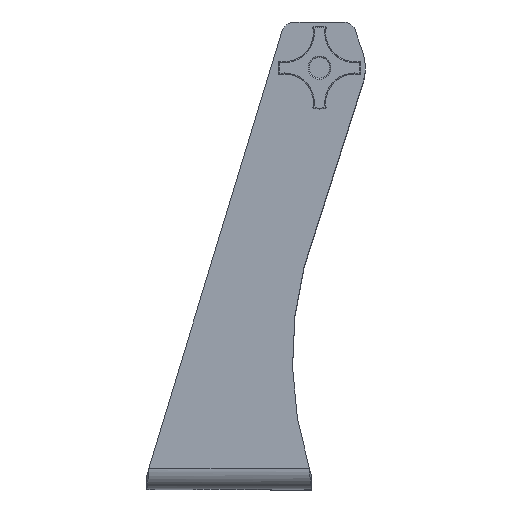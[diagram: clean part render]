
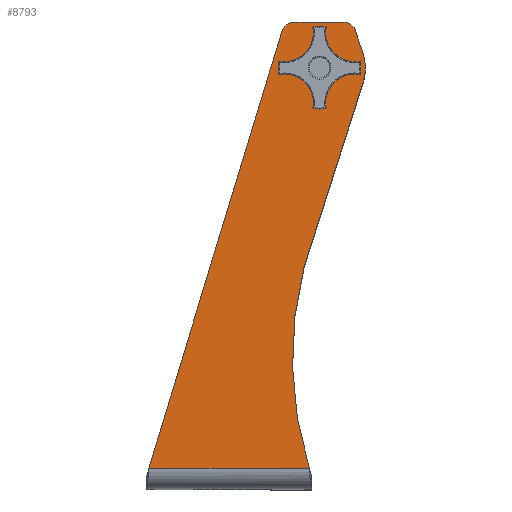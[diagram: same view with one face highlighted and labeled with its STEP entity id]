
A CAD part, top view. The second image highlights one B-rep face of the part: STEP entity #8793.
In plain terms, the highlighted planar face has unit normal (0, 0, 1) as drawn and (1, 0, 0) by its records, which use the part's own axes.
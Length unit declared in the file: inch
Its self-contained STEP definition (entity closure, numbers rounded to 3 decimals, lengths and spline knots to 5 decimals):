
#147 = CARTESIAN_POINT ( 'NONE',  ( 8.7, 6.07712, -2.04636 ) ) ;
#220 = AXIS2_PLACEMENT_3D ( 'NONE', #8429, #3327, #9301 ) ;
#326 = EDGE_CURVE ( 'NONE', #4017, #4833, #8248, .T. ) ;
#335 = VERTEX_POINT ( 'NONE', #7113 ) ;
#636 = DIRECTION ( 'NONE',  ( 1., 0., 0. ) ) ;
#790 = VERTEX_POINT ( 'NONE', #3461 ) ;
#951 = AXIS2_PLACEMENT_3D ( 'NONE', #8020, #2924, #8873 ) ;
#992 = CARTESIAN_POINT ( 'NONE',  ( 8.7, 12.738, -3.10022 ) ) ;
#1123 = EDGE_CURVE ( 'NONE', #10997, #10694, #7450, .T. ) ;
#1178 = ORIENTED_EDGE ( 'NONE', *, *, #5868, .T. ) ;
#1366 = CARTESIAN_POINT ( 'NONE',  ( 8.7, 3.56814, -11.72649 ) ) ;
#1459 = EDGE_CURVE ( 'NONE', #4833, #4017, #9558, .T. ) ;
#1533 = ORIENTED_EDGE ( 'NONE', *, *, #9703, .T. ) ;
#2204 = PLANE ( 'NONE',  #7842 ) ;
#2221 = DIRECTION ( 'NONE',  ( 1., 0., 0. ) ) ;
#2241 = DIRECTION ( 'NONE',  ( 1., 0., 0. ) ) ;
#2382 = CARTESIAN_POINT ( 'NONE',  ( 8.7, 0.563, 2.19271 ) ) ;
#2471 = FACE_OUTER_BOUND ( 'NONE', #4563, .T. ) ;
#2491 = CARTESIAN_POINT ( 'NONE',  ( 8.7, 12.738, -11.72649 ) ) ;
#2552 = VERTEX_POINT ( 'NONE', #8004 ) ;
#2590 = CIRCLE ( 'NONE', #8826, 1.25 ) ;
#2734 = FACE_BOUND ( 'NONE', #3271, .T. ) ;
#2740 = ORIENTED_EDGE ( 'NONE', *, *, #1459, .F. ) ;
#2753 = EDGE_CURVE ( 'NONE', #8576, #8783, #3039, .T. ) ;
#2839 = DIRECTION ( 'NONE',  ( 1., 0., 0. ) ) ;
#2924 = DIRECTION ( 'NONE',  ( 1., 0., 0. ) ) ;
#3039 = LINE ( 'NONE', #2491, #9563 ) ;
#3219 = AXIS2_PLACEMENT_3D ( 'NONE', #8526, #3434, #9394 ) ;
#3271 = EDGE_LOOP ( 'NONE', ( #4531, #2740 ) ) ;
#3327 = DIRECTION ( 'NONE',  ( -1., 0., 0. ) ) ;
#3434 = DIRECTION ( 'NONE',  ( 1., 0., 0. ) ) ;
#3461 = CARTESIAN_POINT ( 'NONE',  ( 8.7, 11.12647, -3.6619 ) ) ;
#3620 = EDGE_CURVE ( 'NONE', #10694, #9142, #9957, .T. ) ;
#3662 = VECTOR ( 'NONE', #7583, 39.37008 ) ;
#3743 = ORIENTED_EDGE ( 'NONE', *, *, #4496, .T. ) ;
#4017 = VERTEX_POINT ( 'NONE', #10166 ) ;
#4055 = VECTOR ( 'NONE', #9561, 39.37008 ) ;
#4207 = LINE ( 'NONE', #7612, #3662 ) ;
#4328 = EDGE_CURVE ( 'NONE', #2552, #8576, #8077, .T. ) ;
#4496 = EDGE_CURVE ( 'NONE', #335, #10997, #4207, .T. ) ;
#4531 = ORIENTED_EDGE ( 'NONE', *, *, #326, .F. ) ;
#4563 = EDGE_LOOP ( 'NONE', ( #3743, #6577, #7619, #6706, #9416, #1178, #8210, #8448, #1533 ) ) ;
#4577 = LINE ( 'NONE', #4649, #6568 ) ;
#4649 = CARTESIAN_POINT ( 'NONE',  ( 8.7, 6.61069, -2.21707 ) ) ;
#4738 = CARTESIAN_POINT ( 'NONE',  ( 8.7, 12.738, -1.79451 ) ) ;
#4833 = VERTEX_POINT ( 'NONE', #10742 ) ;
#4843 = CARTESIAN_POINT ( 'NONE',  ( 8.7, 0.563, -11.72649 ) ) ;
#5157 = VECTOR ( 'NONE', #10675, 39.37008 ) ;
#5730 = CARTESIAN_POINT ( 'NONE',  ( 8.7, 11.488, -2.46533 ) ) ;
#5868 = EDGE_CURVE ( 'NONE', #9639, #2552, #6829, .T. ) ;
#6144 = CARTESIAN_POINT ( 'NONE',  ( 8.7, 1.98684, -6.87961 ) ) ;
#6532 = AXIS2_PLACEMENT_3D ( 'NONE', #8788, #2839, #7942 ) ;
#6568 = VECTOR ( 'NONE', #9762, 39.37008 ) ;
#6577 = ORIENTED_EDGE ( 'NONE', *, *, #1123, .T. ) ;
#6584 = CARTESIAN_POINT ( 'NONE',  ( 8.7, 11.84953, -3.6619 ) ) ;
#6591 = DIRECTION ( 'NONE',  ( 0., 1., 0. ) ) ;
#6706 = ORIENTED_EDGE ( 'NONE', *, *, #9847, .T. ) ;
#6829 = LINE ( 'NONE', #6144, #4055 ) ;
#7113 = CARTESIAN_POINT ( 'NONE',  ( 8.7, 12.45347, -1.43079 ) ) ;
#7323 = CARTESIAN_POINT ( 'NONE',  ( 8.7, 11.488, -2.46533 ) ) ;
#7450 = LINE ( 'NONE', #4843, #5157 ) ;
#7583 = DIRECTION ( 'NONE',  ( 0., -0.957, 0.292 ) ) ;
#7612 = CARTESIAN_POINT ( 'NONE',  ( 8.7, 7.19407, 0.17195 ) ) ;
#7619 = ORIENTED_EDGE ( 'NONE', *, *, #3620, .T. ) ;
#7842 = AXIS2_PLACEMENT_3D ( 'NONE', #1366, #2241, #8199 ) ;
#7942 = DIRECTION ( 'NONE',  ( 0., 1., 0. ) ) ;
#8004 = CARTESIAN_POINT ( 'NONE',  ( 8.7, 12.47165, -3.45894 ) ) ;
#8020 = CARTESIAN_POINT ( 'NONE',  ( 8.7, 12.36326, -3.10022 ) ) ;
#8077 = CIRCLE ( 'NONE', #951, 0.37474 ) ;
#8171 = DIRECTION ( 'NONE',  ( 0., 1., 0. ) ) ;
#8188 = AXIS2_PLACEMENT_3D ( 'NONE', #5730, #636, #6591 ) ;
#8199 = DIRECTION ( 'NONE',  ( 0., 1., 0. ) ) ;
#8210 = ORIENTED_EDGE ( 'NONE', *, *, #4328, .T. ) ;
#8248 = CIRCLE ( 'NONE', #6532, 0.1955 ) ;
#8280 = EDGE_CURVE ( 'NONE', #790, #9639, #2590, .T. ) ;
#8429 = CARTESIAN_POINT ( 'NONE',  ( 8.7, 3.56814, -11.72649 ) ) ;
#8448 = ORIENTED_EDGE ( 'NONE', *, *, #2753, .T. ) ;
#8526 = CARTESIAN_POINT ( 'NONE',  ( 8.7, 12.36326, -1.79451 ) ) ;
#8576 = VERTEX_POINT ( 'NONE', #992 ) ;
#8783 = VERTEX_POINT ( 'NONE', #4738 ) ;
#8788 = CARTESIAN_POINT ( 'NONE',  ( 8.7, 11.488, -2.46533 ) ) ;
#8793 = ADVANCED_FACE ( 'NONE', ( #2734, #2471 ), #2204, .T. ) ;
#8826 = AXIS2_PLACEMENT_3D ( 'NONE', #7323, #2221, #8171 ) ;
#8873 = DIRECTION ( 'NONE',  ( 0., 1., 0. ) ) ;
#9142 = VERTEX_POINT ( 'NONE', #147 ) ;
#9301 = DIRECTION ( 'NONE',  ( 0., 1., 0. ) ) ;
#9310 = DIRECTION ( 'NONE',  ( 0., 0., 1. ) ) ;
#9394 = DIRECTION ( 'NONE',  ( 0., 1., 0. ) ) ;
#9416 = ORIENTED_EDGE ( 'NONE', *, *, #8280, .T. ) ;
#9558 = CIRCLE ( 'NONE', #8188, 0.1955 ) ;
#9561 = DIRECTION ( 'NONE',  ( 0., 0.951, 0.31 ) ) ;
#9563 = VECTOR ( 'NONE', #9310, 39.37008 ) ;
#9639 = VERTEX_POINT ( 'NONE', #6584 ) ;
#9640 = CIRCLE ( 'NONE', #3219, 0.37474 ) ;
#9678 = CARTESIAN_POINT ( 'NONE',  ( 8.7, 0.563, -2.18872 ) ) ;
#9703 = EDGE_CURVE ( 'NONE', #8783, #335, #9640, .T. ) ;
#9762 = DIRECTION ( 'NONE',  ( 0., 0.952, -0.305 ) ) ;
#9847 = EDGE_CURVE ( 'NONE', #9142, #790, #4577, .T. ) ;
#9957 = CIRCLE ( 'NONE', #220, 10. ) ;
#10166 = CARTESIAN_POINT ( 'NONE',  ( 8.7, 11.6835, -2.46533 ) ) ;
#10675 = DIRECTION ( 'NONE',  ( 0., 0., -1. ) ) ;
#10694 = VERTEX_POINT ( 'NONE', #9678 ) ;
#10742 = CARTESIAN_POINT ( 'NONE',  ( 8.7, 11.2925, -2.46533 ) ) ;
#10997 = VERTEX_POINT ( 'NONE', #2382 ) ;
